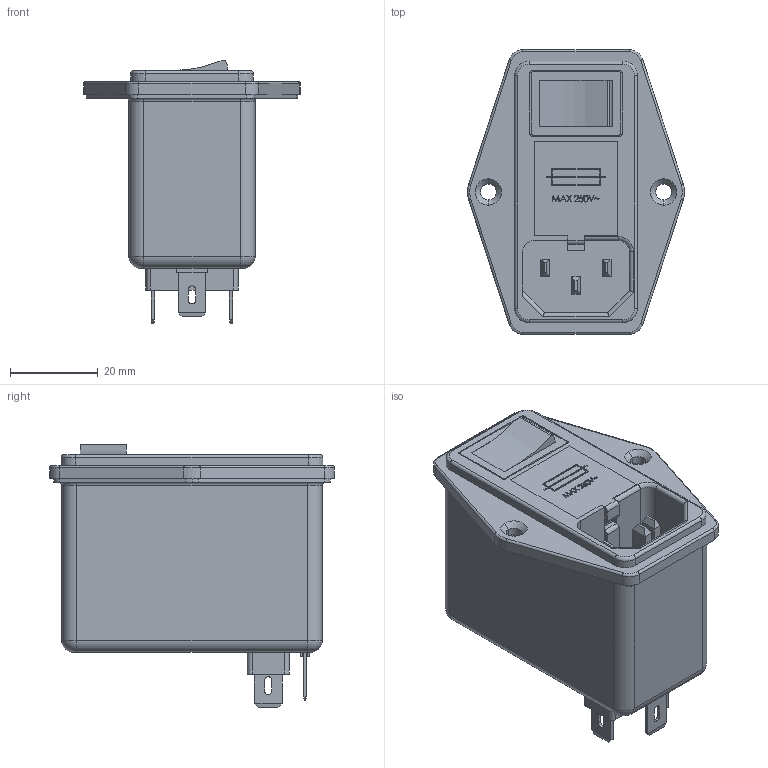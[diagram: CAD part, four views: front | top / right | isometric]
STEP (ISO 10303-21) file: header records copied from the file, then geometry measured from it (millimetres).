
FILE_DESCRIPTION (( 'STEP AP214' ), '1' );
FILE_NAME ('IS-SERIES.STEP', '2014-03-07T00:47:20', ( 'SEC' ), ( 'Samsung Electronics' ), 'SwSTEP 2.0', 'SolidWorks 2008', '' );
FILE_SCHEMA (( 'AUTOMOTIVE_DESIGN' ));
Length unit declared in the file: millimetre
Products named in the file (10): switch_ル遽; FUSE COVER_ル遽; EARTH TAB M_ル遽; INLET BODY FDAC-19_ル遽; ENCLOSURE G_ル遽; IS-SERIES; BASE BODY F_ル遽; inlet pin D_晦獄; inlet pin C_晦獄; FASTON TAB #250 I_ル遽
Assembly tree (11 placements, depth 2):
  IS-SERIES
    switch_ル遽
    inlet pin D_晦獄  x2
    BASE BODY F_ル遽
    EARTH TAB M_ル遽
    ENCLOSURE G_ル遽
    FASTON TAB #250 I_ル遽  x2
    INLET BODY FDAC-19_ル遽
    FUSE COVER_ル遽
    inlet pin C_晦獄
Bounding box: 49.5 x 65 x 60.18 mm (x, y, z)
Volume: 28119.8 mm3; surface area: 33951.7 mm2
Topology: 12 solids, 12 shells, 517 faces, 1307 edges, 837 vertices
Faces by surface type: plane 338, cylinder 109, bspline 35, torus 31, cone 4
Entity records: 16446 total; most frequent: CARTESIAN_POINT 4615, ORIENTED_EDGE 2374, DIRECTION 2239, EDGE_CURVE 1187, VECTOR 885, LINE 885, VERTEX_POINT 761, AXIS2_PLACEMENT_3D 677
